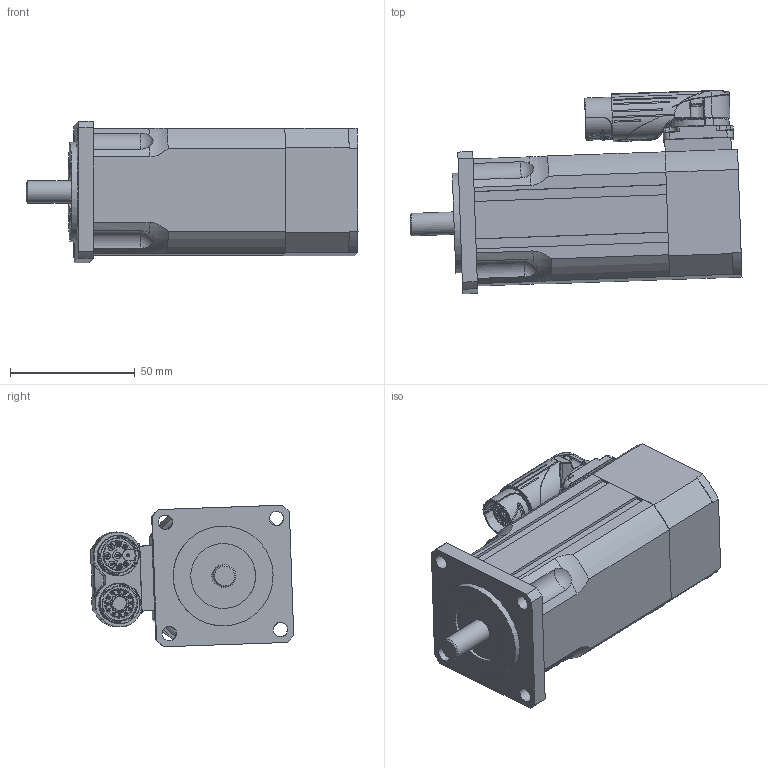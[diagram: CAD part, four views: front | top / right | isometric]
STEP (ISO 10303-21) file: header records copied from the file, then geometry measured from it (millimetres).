
FILE_DESCRIPTION(/* description */ ('Alibre Inc.'),/* implementation_level */ '2;1');
FILE_NAME(/* name */ 'export0',/* time_stamp */ '2011-07-28T09:04:02+02:00',/* author */ (''),/* organization */ (''),/* preprocessor_version */ 'ST-DEVELOPER v12',/* originating_system */ 'Alibre',/* authorisation */ '');
FILE_SCHEMA (('AUTOMOTIVE_DESIGN'));
Length unit declared in the file: millimetre
Products named in the file (4): ID_1
Bounding box: 132.95 x 81.46 x 56.69 mm (x, y, z)
Volume: 295763.8 mm3; surface area: 44120.2 mm2
Topology: 3 solids, 4 shells, 1368 faces, 3360 edges, 2040 vertices
Faces by surface type: bspline 491, plane 364, cylinder 347, torus 86, cone 50, sphere 30
Full cylindrical faces by diameter (mm): 1 x21, 1.5 x1, 1.8 x2, 3.2 x4, 4 x1, 7.5 x1, 8 x1, 9 x1, 11.75 x1, 16.2 x1, 16.95 x1, 17.025 x1, 18.8 x1, 19.8 x1, 20 x1, 22.765 x1, 26 x1, 40 x1
Entity records: 69908 total; most frequent: CARTESIAN_POINT 41497, ORIENTED_EDGE 6282, DIRECTION 4793, EDGE_CURVE 3141, AXIS2_PLACEMENT_3D 2049, VERTEX_POINT 1989, EDGE_LOOP 1586, FACE_BOUND 1586
